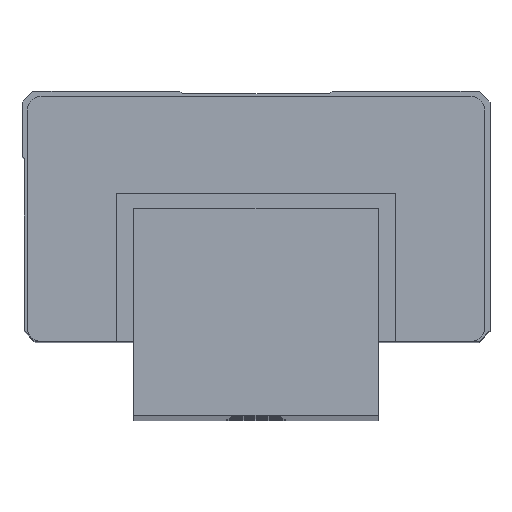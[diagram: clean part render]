
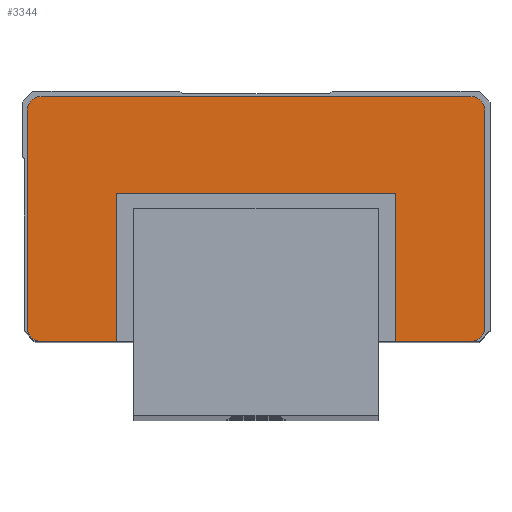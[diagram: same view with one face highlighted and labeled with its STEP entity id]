
A CAD part, top view. The second image highlights one B-rep face of the part: STEP entity #3344.
In plain terms, the highlighted planar face has unit normal (0, 0, 1).
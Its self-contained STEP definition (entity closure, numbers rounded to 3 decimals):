
#2818=CARTESIAN_POINT('',(-3.15,41.1,344.0));
#2819=VERTEX_POINT('',#2818);
#2820=CARTESIAN_POINT('',(48.15,41.1,344.0));
#2821=VERTEX_POINT('',#2820);
#2822=CARTESIAN_POINT('',(-3.15,41.1,344.0));
#2823=DIRECTION('',(1.0,0.0,0.0));
#2824=VECTOR('',#2823,1.0);
#2825=LINE('',#2822,#2824);
#2826=EDGE_CURVE('',#2819,#2821,#2825,.T.);
#2858=CARTESIAN_POINT('',(-3.15,14.,344.0));
#2859=VERTEX_POINT('',#2858);
#2860=CARTESIAN_POINT('',(-3.15,14.,344.0));
#2861=DIRECTION('',(0.0,1.0,0.0));
#2862=VECTOR('',#2861,1.0);
#2863=LINE('',#2860,#2862);
#2864=EDGE_CURVE('',#2859,#2819,#2863,.T.);
#2889=CARTESIAN_POINT('',(48.15,14.,344.0));
#2890=VERTEX_POINT('',#2889);
#2891=CARTESIAN_POINT('',(48.15,41.1,344.0));
#2892=DIRECTION('',(0.0,-1.0,0.0));
#2893=VECTOR('',#2892,1.0);
#2894=LINE('',#2891,#2893);
#2895=EDGE_CURVE('',#2821,#2890,#2894,.T.);
#2969=CARTESIAN_POINT('',(-19.5,56.5,344.0));
#2970=VERTEX_POINT('',#2969);
#2971=CARTESIAN_POINT('',(-17.,59.,344.0));
#2972=VERTEX_POINT('',#2971);
#2973=CARTESIAN_POINT('',(-17.,56.5,344.0));
#2974=DIRECTION('',(0.0,0.0,-1.0));
#2975=DIRECTION('',(-1.0,0.,0.0));
#2976=AXIS2_PLACEMENT_3D('',#2973,#2974,#2975);
#2977=CIRCLE('',#2976,2.5);
#2978=EDGE_CURVE('',#2970,#2972,#2977,.T.);
#3011=CARTESIAN_POINT('',(62.,59.,344.0));
#3012=VERTEX_POINT('',#3011);
#3013=CARTESIAN_POINT('',(-17.,59.,344.0));
#3014=DIRECTION('',(1.0,0.0,0.0));
#3015=VECTOR('',#3014,1.0);
#3016=LINE('',#3013,#3015);
#3017=EDGE_CURVE('',#2972,#3012,#3016,.T.);
#3042=CARTESIAN_POINT('',(64.5,56.5,344.0));
#3043=VERTEX_POINT('',#3042);
#3044=CARTESIAN_POINT('',(62.,56.5,344.0));
#3045=DIRECTION('',(0.0,0.0,-1.0));
#3046=DIRECTION('',(0.,1.0,0.0));
#3047=AXIS2_PLACEMENT_3D('',#3044,#3045,#3046);
#3048=CIRCLE('',#3047,2.5);
#3049=EDGE_CURVE('',#3012,#3043,#3048,.T.);
#3075=CARTESIAN_POINT('',(64.5,16.5,344.0));
#3076=VERTEX_POINT('',#3075);
#3077=CARTESIAN_POINT('',(64.5,56.5,344.0));
#3078=DIRECTION('',(0.0,-1.0,0.0));
#3079=VECTOR('',#3078,1.0);
#3080=LINE('',#3077,#3079);
#3081=EDGE_CURVE('',#3043,#3076,#3080,.T.);
#3106=CARTESIAN_POINT('',(62.,14.,344.0));
#3107=VERTEX_POINT('',#3106);
#3108=CARTESIAN_POINT('',(62.,16.5,344.0));
#3109=DIRECTION('',(0.0,0.0,-1.0));
#3110=DIRECTION('',(1.0,0.0,0.0));
#3111=AXIS2_PLACEMENT_3D('',#3108,#3109,#3110);
#3112=CIRCLE('',#3111,2.5);
#3113=EDGE_CURVE('',#3076,#3107,#3112,.T.);
#3139=CARTESIAN_POINT('',(62.,14.,344.0));
#3140=DIRECTION('',(-1.0,0.0,0.0));
#3141=VECTOR('',#3140,1.0);
#3142=LINE('',#3139,#3141);
#3143=EDGE_CURVE('',#3107,#2890,#3142,.T.);
#3242=CARTESIAN_POINT('',(-17.,14.,344.0));
#3243=VERTEX_POINT('',#3242);
#3244=CARTESIAN_POINT('',(-3.15,14.,344.0));
#3245=DIRECTION('',(-1.0,0.0,0.0));
#3246=VECTOR('',#3245,1.0);
#3247=LINE('',#3244,#3246);
#3248=EDGE_CURVE('',#2859,#3243,#3247,.T.);
#3275=CARTESIAN_POINT('',(-19.5,16.5,344.0));
#3276=VERTEX_POINT('',#3275);
#3277=CARTESIAN_POINT('',(-17.,16.5,344.0));
#3278=DIRECTION('',(0.0,0.0,-1.0));
#3279=DIRECTION('',(0.,-1.0,0.0));
#3280=AXIS2_PLACEMENT_3D('',#3277,#3278,#3279);
#3281=CIRCLE('',#3280,2.5);
#3282=EDGE_CURVE('',#3243,#3276,#3281,.T.);
#3308=CARTESIAN_POINT('',(-19.5,16.5,344.0));
#3309=DIRECTION('',(0.0,1.0,0.0));
#3310=VECTOR('',#3309,1.0);
#3311=LINE('',#3308,#3310);
#3312=EDGE_CURVE('',#3276,#2970,#3311,.T.);
#3325=CARTESIAN_POINT('',(-23.7,11.75,344.0));
#3326=DIRECTION('',(0.0,0.0,1.0));
#3327=DIRECTION('',(1.0,0.0,0.0));
#3328=AXIS2_PLACEMENT_3D('',#3325,#3326,#3327);
#3329=PLANE('',#3328);
#3330=ORIENTED_EDGE('',*,*,#2895,.T.);
#3331=ORIENTED_EDGE('',*,*,#3143,.F.);
#3332=ORIENTED_EDGE('',*,*,#3113,.F.);
#3333=ORIENTED_EDGE('',*,*,#3081,.F.);
#3334=ORIENTED_EDGE('',*,*,#3049,.F.);
#3335=ORIENTED_EDGE('',*,*,#3017,.F.);
#3336=ORIENTED_EDGE('',*,*,#2978,.F.);
#3337=ORIENTED_EDGE('',*,*,#3312,.F.);
#3338=ORIENTED_EDGE('',*,*,#3282,.F.);
#3339=ORIENTED_EDGE('',*,*,#3248,.F.);
#3340=ORIENTED_EDGE('',*,*,#2864,.T.);
#3341=ORIENTED_EDGE('',*,*,#2826,.T.);
#3342=EDGE_LOOP('',(#3330,#3331,#3332,#3333,#3334,#3335,#3336,#3337,#3338,#3339,#3340,#3341));
#3343=FACE_OUTER_BOUND('',#3342,.T.);
#3344=ADVANCED_FACE('',(#3343),#3329,.T.);
